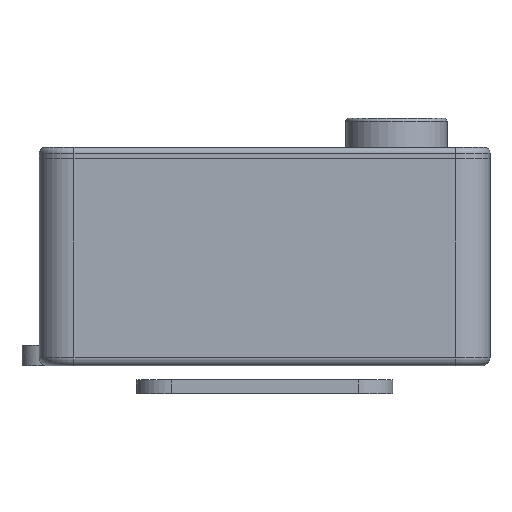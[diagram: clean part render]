
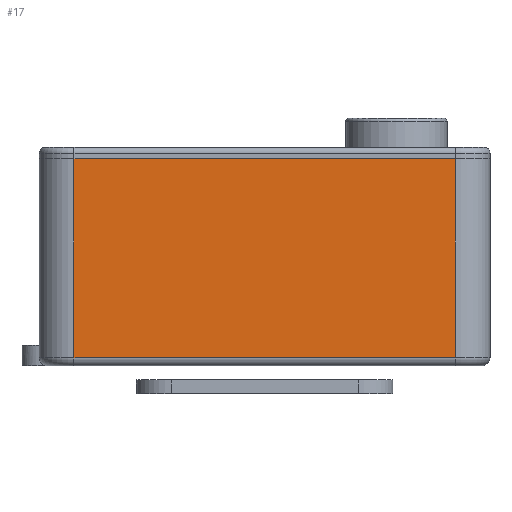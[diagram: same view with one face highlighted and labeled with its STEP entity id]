
A CAD part, left-side view. The second image highlights one B-rep face of the part: STEP entity #17.
In plain terms, the highlighted planar face has unit normal (-1, 0, 0).
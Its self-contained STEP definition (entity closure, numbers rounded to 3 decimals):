
#17 = ADVANCED_FACE('',(#18),#32,.T.);
#18 = FACE_BOUND('',#19,.T.);
#19 = EDGE_LOOP('',(#20,#55,#83,#111));
#20 = ORIENTED_EDGE('',*,*,#21,.T.);
#21 = EDGE_CURVE('',#22,#24,#26,.T.);
#22 = VERTEX_POINT('',#23);
#23 = CARTESIAN_POINT('',(-24.5,-27.5,-11.8));
#24 = VERTEX_POINT('',#25);
#25 = CARTESIAN_POINT('',(-24.5,-27.5,16.9));
#26 = SURFACE_CURVE('',#27,(#31,#43),.PCURVE_S1.);
#27 = LINE('',#28,#29);
#28 = CARTESIAN_POINT('',(-24.5,-27.5,-13.));
#29 = VECTOR('',#30,1.);
#30 = DIRECTION('',(0.,0.,1.));
#31 = PCURVE('',#32,#37);
#32 = PLANE('',#33);
#33 = AXIS2_PLACEMENT_3D('',#34,#35,#36);
#34 = CARTESIAN_POINT('',(-24.5,-27.5,-13.));
#35 = DIRECTION('',(-1.,0.,0.));
#36 = DIRECTION('',(0.,1.,0.));
#37 = DEFINITIONAL_REPRESENTATION('',(#38),#42);
#38 = LINE('',#39,#40);
#39 = CARTESIAN_POINT('',(0.,0.));
#40 = VECTOR('',#41,1.);
#41 = DIRECTION('',(0.,-1.));
#42 = ( GEOMETRIC_REPRESENTATION_CONTEXT(2) 
PARAMETRIC_REPRESENTATION_CONTEXT() REPRESENTATION_CONTEXT('2D SPACE',''
  ) );
#43 = PCURVE('',#44,#49);
#44 = CYLINDRICAL_SURFACE('',#45,5.);
#45 = AXIS2_PLACEMENT_3D('',#46,#47,#48);
#46 = CARTESIAN_POINT('',(-19.5,-27.5,-13.));
#47 = DIRECTION('',(-0.,-0.,-1.));
#48 = DIRECTION('',(1.,0.,0.));
#49 = DEFINITIONAL_REPRESENTATION('',(#50),#54);
#50 = LINE('',#51,#52);
#51 = CARTESIAN_POINT('',(-3.142,0.));
#52 = VECTOR('',#53,1.);
#53 = DIRECTION('',(-0.,-1.));
#54 = ( GEOMETRIC_REPRESENTATION_CONTEXT(2) 
PARAMETRIC_REPRESENTATION_CONTEXT() REPRESENTATION_CONTEXT('2D SPACE',''
  ) );
#55 = ORIENTED_EDGE('',*,*,#56,.T.);
#56 = EDGE_CURVE('',#24,#57,#59,.T.);
#57 = VERTEX_POINT('',#58);
#58 = CARTESIAN_POINT('',(-24.5,27.5,16.9));
#59 = SURFACE_CURVE('',#60,(#64,#71),.PCURVE_S1.);
#60 = LINE('',#61,#62);
#61 = CARTESIAN_POINT('',(-24.5,0.,16.9));
#62 = VECTOR('',#63,1.);
#63 = DIRECTION('',(0.,1.,0.));
#64 = PCURVE('',#32,#65);
#65 = DEFINITIONAL_REPRESENTATION('',(#66),#70);
#66 = LINE('',#67,#68);
#67 = CARTESIAN_POINT('',(27.5,-29.9));
#68 = VECTOR('',#69,1.);
#69 = DIRECTION('',(1.,0.));
#70 = ( GEOMETRIC_REPRESENTATION_CONTEXT(2) 
PARAMETRIC_REPRESENTATION_CONTEXT() REPRESENTATION_CONTEXT('2D SPACE',''
  ) );
#71 = PCURVE('',#72,#77);
#72 = PLANE('',#73);
#73 = AXIS2_PLACEMENT_3D('',#74,#75,#76);
#74 = CARTESIAN_POINT('',(0.,0.,16.9)
  );
#75 = DIRECTION('',(0.,0.,1.));
#76 = DIRECTION('',(1.,0.,-0.));
#77 = DEFINITIONAL_REPRESENTATION('',(#78),#82);
#78 = LINE('',#79,#80);
#79 = CARTESIAN_POINT('',(-24.5,0.));
#80 = VECTOR('',#81,1.);
#81 = DIRECTION('',(0.,1.));
#82 = ( GEOMETRIC_REPRESENTATION_CONTEXT(2) 
PARAMETRIC_REPRESENTATION_CONTEXT() REPRESENTATION_CONTEXT('2D SPACE',''
  ) );
#83 = ORIENTED_EDGE('',*,*,#84,.F.);
#84 = EDGE_CURVE('',#85,#57,#87,.T.);
#85 = VERTEX_POINT('',#86);
#86 = CARTESIAN_POINT('',(-24.5,27.5,-11.8));
#87 = SURFACE_CURVE('',#88,(#92,#99),.PCURVE_S1.);
#88 = LINE('',#89,#90);
#89 = CARTESIAN_POINT('',(-24.5,27.5,-13.));
#90 = VECTOR('',#91,1.);
#91 = DIRECTION('',(0.,0.,1.));
#92 = PCURVE('',#32,#93);
#93 = DEFINITIONAL_REPRESENTATION('',(#94),#98);
#94 = LINE('',#95,#96);
#95 = CARTESIAN_POINT('',(55.,0.));
#96 = VECTOR('',#97,1.);
#97 = DIRECTION('',(0.,-1.));
#98 = ( GEOMETRIC_REPRESENTATION_CONTEXT(2) 
PARAMETRIC_REPRESENTATION_CONTEXT() REPRESENTATION_CONTEXT('2D SPACE',''
  ) );
#99 = PCURVE('',#100,#105);
#100 = CYLINDRICAL_SURFACE('',#101,5.);
#101 = AXIS2_PLACEMENT_3D('',#102,#103,#104);
#102 = CARTESIAN_POINT('',(-19.5,27.5,-13.));
#103 = DIRECTION('',(-0.,-0.,-1.));
#104 = DIRECTION('',(1.,0.,0.));
#105 = DEFINITIONAL_REPRESENTATION('',(#106),#110);
#106 = LINE('',#107,#108);
#107 = CARTESIAN_POINT('',(-3.142,0.));
#108 = VECTOR('',#109,1.);
#109 = DIRECTION('',(-0.,-1.));
#110 = ( GEOMETRIC_REPRESENTATION_CONTEXT(2) 
PARAMETRIC_REPRESENTATION_CONTEXT() REPRESENTATION_CONTEXT('2D SPACE',''
  ) );
#111 = ORIENTED_EDGE('',*,*,#112,.F.);
#112 = EDGE_CURVE('',#22,#85,#113,.T.);
#113 = SURFACE_CURVE('',#114,(#118,#125),.PCURVE_S1.);
#114 = LINE('',#115,#116);
#115 = CARTESIAN_POINT('',(-24.5,-27.5,-11.8));
#116 = VECTOR('',#117,1.);
#117 = DIRECTION('',(0.,1.,0.));
#118 = PCURVE('',#32,#119);
#119 = DEFINITIONAL_REPRESENTATION('',(#120),#124);
#120 = LINE('',#121,#122);
#121 = CARTESIAN_POINT('',(0.,-1.2));
#122 = VECTOR('',#123,1.);
#123 = DIRECTION('',(1.,0.));
#124 = ( GEOMETRIC_REPRESENTATION_CONTEXT(2) 
PARAMETRIC_REPRESENTATION_CONTEXT() REPRESENTATION_CONTEXT('2D SPACE',''
  ) );
#125 = PCURVE('',#126,#131);
#126 = CYLINDRICAL_SURFACE('',#127,1.2);
#127 = AXIS2_PLACEMENT_3D('',#128,#129,#130);
#128 = CARTESIAN_POINT('',(-23.3,-27.5,-11.8));
#129 = DIRECTION('',(0.,1.,0.));
#130 = DIRECTION('',(-1.,0.,0.));
#131 = DEFINITIONAL_REPRESENTATION('',(#132),#136);
#132 = LINE('',#133,#134);
#133 = CARTESIAN_POINT('',(-0.,0.));
#134 = VECTOR('',#135,1.);
#135 = DIRECTION('',(-0.,1.));
#136 = ( GEOMETRIC_REPRESENTATION_CONTEXT(2) 
PARAMETRIC_REPRESENTATION_CONTEXT() REPRESENTATION_CONTEXT('2D SPACE',''
  ) );
